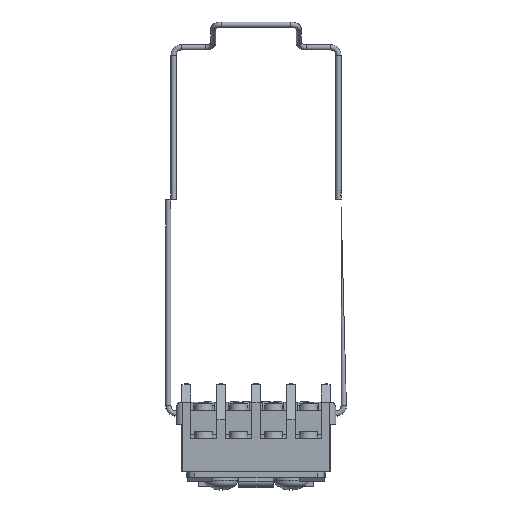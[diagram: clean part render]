
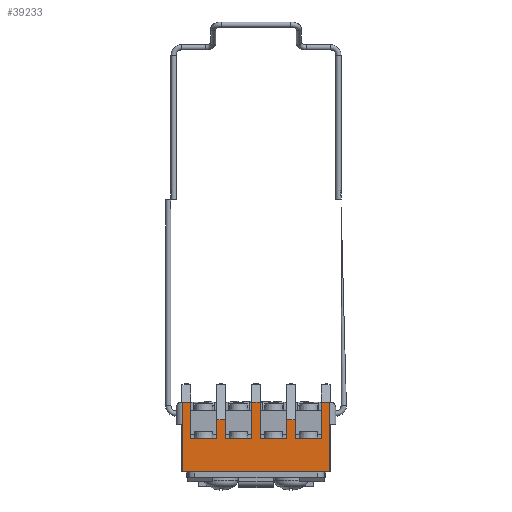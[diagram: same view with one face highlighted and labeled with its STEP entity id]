
A CAD part, left-side view. The second image highlights one B-rep face of the part: STEP entity #39233.
In plain terms, the highlighted planar face has unit normal (-1, 0, 0).
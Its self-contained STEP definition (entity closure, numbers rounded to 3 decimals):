
#2129=LINE($,#54128,#6863);
#2319=LINE($,#54513,#7053);
#2380=LINE($,#54637,#7114);
#2441=LINE($,#54761,#7175);
#2693=LINE($,#55298,#7427);
#2777=LINE($,#55464,#7511);
#2892=LINE($,#55685,#7626);
#4777=LINE($,#63183,#9511);
#4866=LINE($,#63432,#9600);
#4868=LINE($,#63439,#9602);
#4875=LINE($,#63455,#9609);
#4908=LINE($,#63528,#9642);
#4920=LINE($,#63554,#9654);
#4946=LINE($,#63613,#9680);
#4976=LINE($,#63682,#9710);
#5056=LINE($,#63904,#9790);
#5058=LINE($,#63910,#9792);
#5063=LINE($,#63923,#9797);
#5066=LINE($,#63927,#9800);
#5070=LINE($,#63935,#9804);
#6863=VECTOR($,#44250,10.4);
#7053=VECTOR($,#44514,10.4);
#7114=VECTOR($,#44599,5.4);
#7175=VECTOR($,#44684,10.4);
#7427=VECTOR($,#45104,5.4);
#7511=VECTOR($,#45216,5.4);
#7626=VECTOR($,#45371,10.4);
#9511=VECTOR($,#48608,20.);
#9600=VECTOR($,#48937,20.);
#9602=VECTOR($,#48949,2.45);
#9609=VECTOR($,#48970,7.5);
#9642=VECTOR($,#49069,42.4);
#9654=VECTOR($,#49103,7.5);
#9680=VECTOR($,#49177,7.5);
#9710=VECTOR($,#49255,7.5);
#9790=VECTOR($,#49553,2.45);
#9792=VECTOR($,#49563,2.5);
#9797=VECTOR($,#49576,2.5);
#9800=VECTOR($,#49581,5.4);
#9804=VECTOR($,#49593,2.5);
#11621=PLANE($,#41371);
#13835=FACE_OUTER_BOUND($,#16052,.T.);
#16052=EDGE_LOOP($,(#35358,#35359,#35360,#35361,#35362,#35363,#35364,#35365,
#35366,#35367,#35368,#35369,#35370,#35371,#35372,#35373,#35374,#35375,#35376,
#35377));
#17951=VERTEX_POINT($,#54125);
#17952=VERTEX_POINT($,#54127);
#18109=VERTEX_POINT($,#54510);
#18110=VERTEX_POINT($,#54512);
#18160=VERTEX_POINT($,#54634);
#18161=VERTEX_POINT($,#54636);
#18211=VERTEX_POINT($,#54758);
#18212=VERTEX_POINT($,#54760);
#18412=VERTEX_POINT($,#55295);
#18413=VERTEX_POINT($,#55297);
#18480=VERTEX_POINT($,#55461);
#18481=VERTEX_POINT($,#55463);
#18566=VERTEX_POINT($,#55682);
#18567=VERTEX_POINT($,#55684);
#20161=VERTEX_POINT($,#63180);
#20162=VERTEX_POINT($,#63182);
#20201=VERTEX_POINT($,#63429);
#20202=VERTEX_POINT($,#63431);
#20238=VERTEX_POINT($,#63680);
#20275=VERTEX_POINT($,#63922);
#21995=EDGE_CURVE($,#17952,#17951,#2129,.T.);
#22190=EDGE_CURVE($,#18110,#18109,#2319,.T.);
#22253=EDGE_CURVE($,#18161,#18160,#2380,.T.);
#22316=EDGE_CURVE($,#18212,#18211,#2441,.T.);
#22585=EDGE_CURVE($,#18413,#18412,#2693,.T.);
#22671=EDGE_CURVE($,#18481,#18480,#2777,.T.);
#22790=EDGE_CURVE($,#18567,#18566,#2892,.T.);
#25173=EDGE_CURVE($,#20161,#20162,#4777,.T.);
#25294=EDGE_CURVE($,#20201,#20202,#4866,.T.);
#25297=EDGE_CURVE($,#20202,#17951,#4868,.T.);
#25305=EDGE_CURVE($,#18480,#17952,#4875,.T.);
#25341=EDGE_CURVE($,#20201,#20162,#4908,.T.);
#25353=EDGE_CURVE($,#18109,#18413,#4920,.T.);
#25381=EDGE_CURVE($,#18160,#18567,#4946,.T.);
#25415=EDGE_CURVE($,#18211,#20238,#4976,.T.);
#25520=EDGE_CURVE($,#18212,#20161,#5056,.T.);
#25522=EDGE_CURVE($,#18110,#18566,#5058,.T.);
#25528=EDGE_CURVE($,#18161,#20275,#5063,.T.);
#25531=EDGE_CURVE($,#20238,#20275,#5066,.T.);
#25535=EDGE_CURVE($,#18481,#18412,#5070,.T.);
#35358=ORIENTED_EDGE($,*,*,#25341,.T.);
#35359=ORIENTED_EDGE($,*,*,#25173,.F.);
#35360=ORIENTED_EDGE($,*,*,#25520,.F.);
#35361=ORIENTED_EDGE($,*,*,#22316,.T.);
#35362=ORIENTED_EDGE($,*,*,#25415,.T.);
#35363=ORIENTED_EDGE($,*,*,#25531,.T.);
#35364=ORIENTED_EDGE($,*,*,#25528,.F.);
#35365=ORIENTED_EDGE($,*,*,#22253,.T.);
#35366=ORIENTED_EDGE($,*,*,#25381,.T.);
#35367=ORIENTED_EDGE($,*,*,#22790,.T.);
#35368=ORIENTED_EDGE($,*,*,#25522,.F.);
#35369=ORIENTED_EDGE($,*,*,#22190,.T.);
#35370=ORIENTED_EDGE($,*,*,#25353,.T.);
#35371=ORIENTED_EDGE($,*,*,#22585,.T.);
#35372=ORIENTED_EDGE($,*,*,#25535,.F.);
#35373=ORIENTED_EDGE($,*,*,#22671,.T.);
#35374=ORIENTED_EDGE($,*,*,#25305,.T.);
#35375=ORIENTED_EDGE($,*,*,#21995,.T.);
#35376=ORIENTED_EDGE($,*,*,#25297,.F.);
#35377=ORIENTED_EDGE($,*,*,#25294,.F.);
#39233=ADVANCED_FACE($,(#13835),#11621,.T.);
#41371=AXIS2_PLACEMENT_3D($,#63937,#49596,#49597);
#44250=DIRECTION($,(0.,0.,1.));
#44514=DIRECTION($,(0.,0.,-1.));
#44599=DIRECTION($,(0.,0.,-1.));
#44684=DIRECTION($,(0.,0.,-1.));
#45104=DIRECTION($,(0.,0.,1.));
#45216=DIRECTION($,(0.,0.,-1.));
#45371=DIRECTION($,(0.,0.,1.));
#48608=DIRECTION($,(0.,0.,-1.));
#48937=DIRECTION($,(0.,0.,1.));
#48949=DIRECTION($,(0.,-1.,0.));
#48970=DIRECTION($,(0.,1.,0.));
#49069=DIRECTION($,(0.,-1.,0.));
#49103=DIRECTION($,(0.,1.,0.));
#49177=DIRECTION($,(0.,1.,0.));
#49255=DIRECTION($,(0.,1.,0.));
#49553=DIRECTION($,(0.,-1.,0.));
#49563=DIRECTION($,(0.,-1.,0.));
#49576=DIRECTION($,(0.,-1.,0.));
#49581=DIRECTION($,(0.,0.,1.));
#49593=DIRECTION($,(0.,-1.,0.));
#49596=DIRECTION('center_axis',(-1.,0.,0.));
#49597=DIRECTION('ref_axis',(0.,0.,1.));
#54125=CARTESIAN_POINT('',(361.63,277.158,28.858));
#54127=CARTESIAN_POINT('',(361.63,277.158,18.458));
#54128=CARTESIAN_POINT($,(361.63,277.158,18.458));
#54510=CARTESIAN_POINT('',(361.63,259.658,18.458));
#54512=CARTESIAN_POINT('',(361.63,259.658,28.858));
#54513=CARTESIAN_POINT($,(361.63,259.658,28.858));
#54634=CARTESIAN_POINT('',(361.63,249.658,18.458));
#54636=CARTESIAN_POINT('',(361.63,249.658,23.858));
#54637=CARTESIAN_POINT($,(361.63,249.658,23.858));
#54758=CARTESIAN_POINT('',(361.63,239.658,18.458));
#54760=CARTESIAN_POINT('',(361.63,239.658,28.858));
#54761=CARTESIAN_POINT($,(361.63,239.658,28.858));
#55295=CARTESIAN_POINT('',(361.63,267.158,23.858));
#55297=CARTESIAN_POINT('',(361.63,267.158,18.458));
#55298=CARTESIAN_POINT($,(361.63,267.158,18.458));
#55461=CARTESIAN_POINT('',(361.63,269.658,18.458));
#55463=CARTESIAN_POINT('',(361.63,269.658,23.858));
#55464=CARTESIAN_POINT($,(361.63,269.658,23.858));
#55682=CARTESIAN_POINT('',(361.63,257.158,28.858));
#55684=CARTESIAN_POINT('',(361.63,257.158,18.458));
#55685=CARTESIAN_POINT($,(361.63,257.158,18.458));
#63180=CARTESIAN_POINT('',(361.63,237.208,28.858));
#63182=CARTESIAN_POINT('',(361.63,237.208,8.858));
#63183=CARTESIAN_POINT($,(361.63,237.208,28.858));
#63429=CARTESIAN_POINT('',(361.63,279.608,8.858));
#63431=CARTESIAN_POINT('',(361.63,279.608,28.858));
#63432=CARTESIAN_POINT($,(361.63,279.608,8.858));
#63439=CARTESIAN_POINT($,(361.63,279.608,28.858));
#63455=CARTESIAN_POINT($,(361.63,269.658,18.458));
#63528=CARTESIAN_POINT($,(361.63,279.608,8.858));
#63554=CARTESIAN_POINT($,(361.63,259.658,18.458));
#63613=CARTESIAN_POINT($,(361.63,249.658,18.458));
#63680=CARTESIAN_POINT('',(361.63,247.158,18.458));
#63682=CARTESIAN_POINT($,(361.63,239.658,18.458));
#63904=CARTESIAN_POINT($,(361.63,239.658,28.858));
#63910=CARTESIAN_POINT($,(361.63,259.658,28.858));
#63922=CARTESIAN_POINT('',(361.63,247.158,23.858));
#63923=CARTESIAN_POINT($,(361.63,249.658,23.858));
#63927=CARTESIAN_POINT($,(361.63,247.158,18.458));
#63935=CARTESIAN_POINT($,(361.63,269.658,23.858));
#63937=CARTESIAN_POINT('Origin',(361.63,269.658,8.858));
